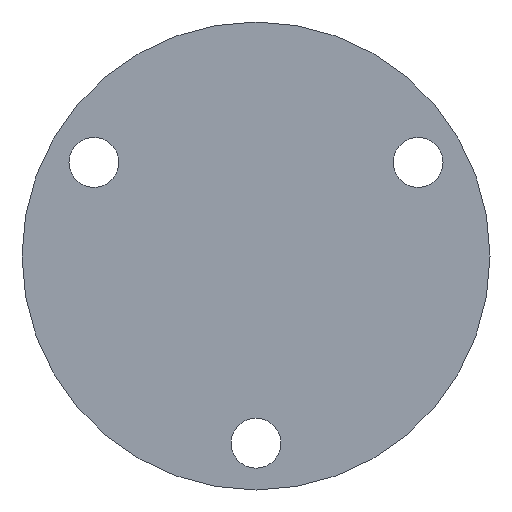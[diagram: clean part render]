
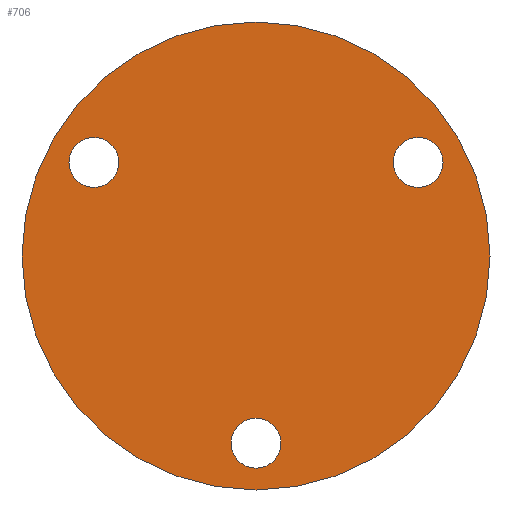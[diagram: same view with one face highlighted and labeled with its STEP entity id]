
A CAD part, front view. The second image highlights one B-rep face of the part: STEP entity #706.
In plain terms, the highlighted planar face has unit normal (0, -1, 0).
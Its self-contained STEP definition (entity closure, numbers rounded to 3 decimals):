
#6 = AXIS2_PLACEMENT_3D ( 'NONE', #666, #337, #658 ) ;
#18 = CARTESIAN_POINT ( 'NONE',  ( -10.392, 0., 7.6 ) ) ;
#27 = CARTESIAN_POINT ( 'NONE',  ( 10.392, 0., 4.4 ) ) ;
#39 = EDGE_LOOP ( 'NONE', ( #220, #386 ) ) ;
#47 = ORIENTED_EDGE ( 'NONE', *, *, #65, .T. ) ;
#55 = VERTEX_POINT ( 'NONE', #18 ) ;
#60 = CARTESIAN_POINT ( 'NONE',  ( 0., 0., 0. ) ) ;
#65 = EDGE_CURVE ( 'NONE', #95, #668, #403, .T. ) ;
#69 = CARTESIAN_POINT ( 'NONE',  ( 10.392, 0., 6. ) ) ;
#89 = DIRECTION ( 'NONE',  ( 0., 1., 0. ) ) ;
#90 = FACE_BOUND ( 'NONE', #383, .T. ) ;
#92 = CIRCLE ( 'NONE', #190, 1.6 ) ;
#93 = AXIS2_PLACEMENT_3D ( 'NONE', #563, #556, #321 ) ;
#94 = VERTEX_POINT ( 'NONE', #359 ) ;
#95 = VERTEX_POINT ( 'NONE', #181 ) ;
#110 = DIRECTION ( 'NONE',  ( 0., 0., 1. ) ) ;
#112 = DIRECTION ( 'NONE',  ( 0., 1., 0. ) ) ;
#116 = VERTEX_POINT ( 'NONE', #352 ) ;
#128 = AXIS2_PLACEMENT_3D ( 'NONE', #194, #428, #647 ) ;
#131 = CARTESIAN_POINT ( 'NONE',  ( 10.392, 0., 6. ) ) ;
#140 = CIRCLE ( 'NONE', #540, 1.6 ) ;
#156 = AXIS2_PLACEMENT_3D ( 'NONE', #175, #621, #349 ) ;
#159 = ORIENTED_EDGE ( 'NONE', *, *, #198, .T. ) ;
#166 = CIRCLE ( 'NONE', #493, 1.6 ) ;
#171 = ORIENTED_EDGE ( 'NONE', *, *, #329, .T. ) ;
#175 = CARTESIAN_POINT ( 'NONE',  ( -10.392, 0., 6. ) ) ;
#179 = CIRCLE ( 'NONE', #346, 1.6 ) ;
#180 = DIRECTION ( 'NONE',  ( -0.866, 0., -0.5 ) ) ;
#181 = CARTESIAN_POINT ( 'NONE',  ( 0., 0., 15. ) ) ;
#190 = AXIS2_PLACEMENT_3D ( 'NONE', #293, #112, #110 ) ;
#194 = CARTESIAN_POINT ( 'NONE',  ( 0., 0., -12. ) ) ;
#198 = EDGE_CURVE ( 'NONE', #55, #326, #166, .T. ) ;
#220 = ORIENTED_EDGE ( 'NONE', *, *, #597, .T. ) ;
#293 = CARTESIAN_POINT ( 'NONE',  ( 0., 0., -12. ) ) ;
#300 = VERTEX_POINT ( 'NONE', #720 ) ;
#302 = DIRECTION ( 'NONE',  ( 0., 1., 0. ) ) ;
#317 = CIRCLE ( 'NONE', #93, 15. ) ;
#321 = DIRECTION ( 'NONE',  ( 0., 0., -1. ) ) ;
#322 = VERTEX_POINT ( 'NONE', #27 ) ;
#326 = VERTEX_POINT ( 'NONE', #384 ) ;
#329 = EDGE_CURVE ( 'NONE', #116, #94, #345, .T. ) ;
#337 = DIRECTION ( 'NONE',  ( 0., 1., 0. ) ) ;
#345 = CIRCLE ( 'NONE', #128, 1.6 ) ;
#346 = AXIS2_PLACEMENT_3D ( 'NONE', #69, #370, #180 ) ;
#349 = DIRECTION ( 'NONE',  ( 0.866, 0., -0.5 ) ) ;
#352 = CARTESIAN_POINT ( 'NONE',  ( 0., 0., -13.6 ) ) ;
#359 = CARTESIAN_POINT ( 'NONE',  ( 0., 0., -10.4 ) ) ;
#365 = DIRECTION ( 'NONE',  ( 0., -1., 0. ) ) ;
#370 = DIRECTION ( 'NONE',  ( 0., 1., 0. ) ) ;
#383 = EDGE_LOOP ( 'NONE', ( #159, #398 ) ) ;
#384 = CARTESIAN_POINT ( 'NONE',  ( -10.392, 0., 4.4 ) ) ;
#386 = ORIENTED_EDGE ( 'NONE', *, *, #534, .T. ) ;
#387 = EDGE_CURVE ( 'NONE', #94, #116, #92, .T. ) ;
#392 = ORIENTED_EDGE ( 'NONE', *, *, #387, .T. ) ;
#394 = FACE_BOUND ( 'NONE', #401, .T. ) ;
#398 = ORIENTED_EDGE ( 'NONE', *, *, #462, .T. ) ;
#401 = EDGE_LOOP ( 'NONE', ( #392, #171 ) ) ;
#403 = CIRCLE ( 'NONE', #491, 15. ) ;
#428 = DIRECTION ( 'NONE',  ( 0., 1., 0. ) ) ;
#441 = CARTESIAN_POINT ( 'NONE',  ( 0., 0., -15. ) ) ;
#462 = EDGE_CURVE ( 'NONE', #326, #55, #481, .T. ) ;
#467 = DIRECTION ( 'NONE',  ( 0., 0., -1. ) ) ;
#481 = CIRCLE ( 'NONE', #156, 1.6 ) ;
#489 = CARTESIAN_POINT ( 'NONE',  ( -10.392, 0., 6. ) ) ;
#491 = AXIS2_PLACEMENT_3D ( 'NONE', #60, #365, #467 ) ;
#493 = AXIS2_PLACEMENT_3D ( 'NONE', #489, #89, #553 ) ;
#499 = FACE_BOUND ( 'NONE', #39, .T. ) ;
#502 = EDGE_LOOP ( 'NONE', ( #565, #47 ) ) ;
#534 = EDGE_CURVE ( 'NONE', #322, #300, #140, .T. ) ;
#540 = AXIS2_PLACEMENT_3D ( 'NONE', #131, #302, #702 ) ;
#553 = DIRECTION ( 'NONE',  ( 0.866, 0., -0.5 ) ) ;
#556 = DIRECTION ( 'NONE',  ( 0., -1., 0. ) ) ;
#563 = CARTESIAN_POINT ( 'NONE',  ( 0., 0., 0. ) ) ;
#565 = ORIENTED_EDGE ( 'NONE', *, *, #691, .T. ) ;
#597 = EDGE_CURVE ( 'NONE', #300, #322, #179, .T. ) ;
#621 = DIRECTION ( 'NONE',  ( 0., 1., 0. ) ) ;
#647 = DIRECTION ( 'NONE',  ( 0., 0., 1. ) ) ;
#658 = DIRECTION ( 'NONE',  ( 0., 0., 1. ) ) ;
#662 = PLANE ( 'NONE',  #6 ) ;
#666 = CARTESIAN_POINT ( 'NONE',  ( 0., 0., 0. ) ) ;
#668 = VERTEX_POINT ( 'NONE', #441 ) ;
#691 = EDGE_CURVE ( 'NONE', #668, #95, #317, .T. ) ;
#702 = DIRECTION ( 'NONE',  ( -0.866, 0., -0.5 ) ) ;
#706 = ADVANCED_FACE ( 'NONE', ( #90, #499, #394, #732 ), #662, .F. ) ;
#720 = CARTESIAN_POINT ( 'NONE',  ( 10.392, 0., 7.6 ) ) ;
#732 = FACE_OUTER_BOUND ( 'NONE', #502, .T. ) ;
